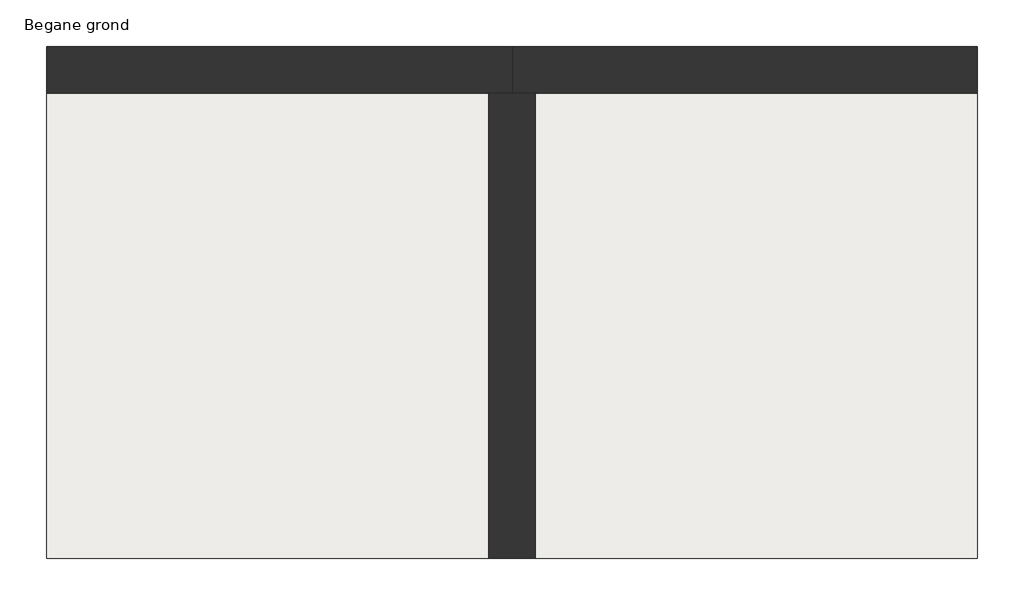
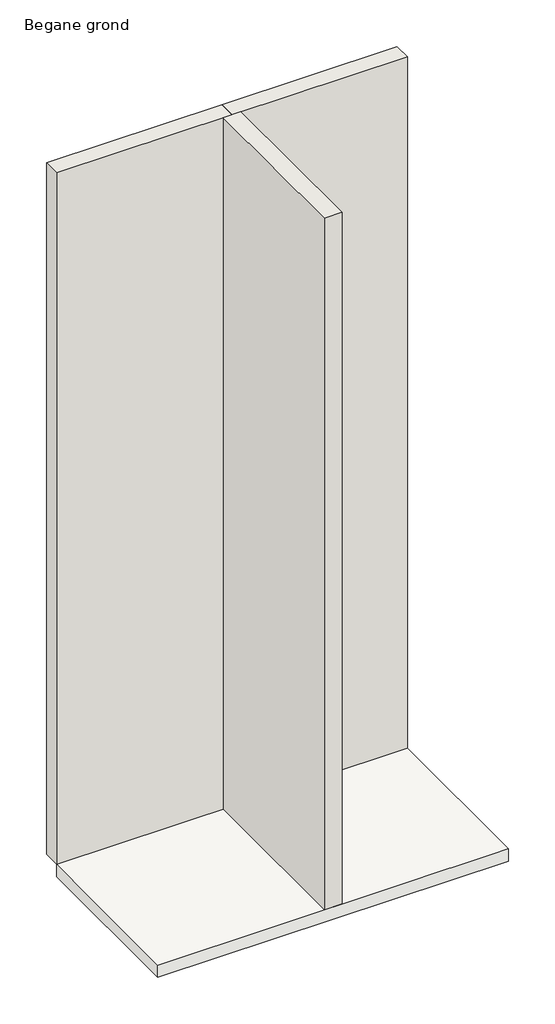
# One storey: 3 walls, 1 slab.
"""IFC4 building model written with IfcOpenShell, lengths in millimetres."""

from ifc_helpers import new_model, si_unit, frame, origin, origin_with_axes, place, context, project, spatial, polyline, outline, extrude, element, save

model = new_model("IFC4")

# Units and contexts
model_context = context("Model", 3, world=origin())
ifc_project = project(units=[si_unit("LENGTHUNIT", "METRE", prefix="MILLI")], contexts=[model_context])

# Site, building, storey
site = spatial("IfcSite", under=ifc_project)
building = spatial("IfcBuilding", under=site)
storey = spatial("IfcBuildingStorey", under=building, Name="Begane grond", Elevation=0.0)

# Slab
placement = place(None, origin())
element("IfcSlab", 1, ObjectType="NLRS_23_FL_Ultracoustic_60x600x12000mm", at=placement, inside=storey, context=model_context, shape_type="SweptSolid", body=[
    extrude(outline(polyline([(3127.0742967, 5226.8454156), (3127.0742967, 4626.8454156), (1927.0742967, 4626.8454156), (1927.0742967, 5226.8454156), (3127.0742967, 5226.8454156)])), frame((0.0, 0.0, -45.0), z_axis=(0.0, 0.0, 1.0), x_axis=(1.0, 0.0, 0.0)), (0.0, 0.0, 1.0), 45.0),
])

# Walls
element("IfcWall", 2, ObjectType="NLRS_22_WA_Ultracoustic_60x600x12000mm", at=placement, inside=storey, context=model_context, shape_type="SweptSolid", body=[
    extrude(outline(polyline([(2527.0742967, 5226.8454156), (1927.0742967, 5226.8454156), (1927.0742967, 5286.8454156), (2527.0742967, 5286.8454156), (2527.0742967, 5226.8454156)])), origin_with_axes(), (0.0, 0.0, 1.0), 2500.0),
])
element("IfcWall", 3, ObjectType="NLRS_22_WA_Ultracoustic_60x600x12000mm", at=placement, inside=storey, context=model_context, shape_type="SweptSolid", body=[
    extrude(outline(polyline([(3127.0742967, 5226.8454156), (2527.0742967, 5226.8454156), (2527.0742967, 5286.8454156), (3127.0742967, 5286.8454156), (3127.0742967, 5226.8454156)])), origin_with_axes(), (0.0, 0.0, 1.0), 2500.0),
])
element("IfcWall", 4, ObjectType="NLRS_22_WA_Ultracoustic_60x600x12000mm", at=placement, inside=storey, context=model_context, shape_type="SweptSolid", body=[
    extrude(outline(polyline([(2497.0742967, 4626.8454156), (2497.0742967, 5226.8454156), (2557.0742967, 5226.8454156), (2557.0742967, 4626.8454156), (2497.0742967, 4626.8454156)])), origin_with_axes(), (0.0, 0.0, 1.0), 2500.0),
])

save(model, "model.ifc")
